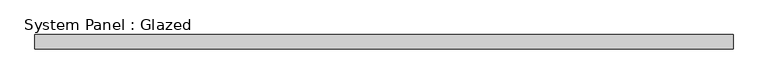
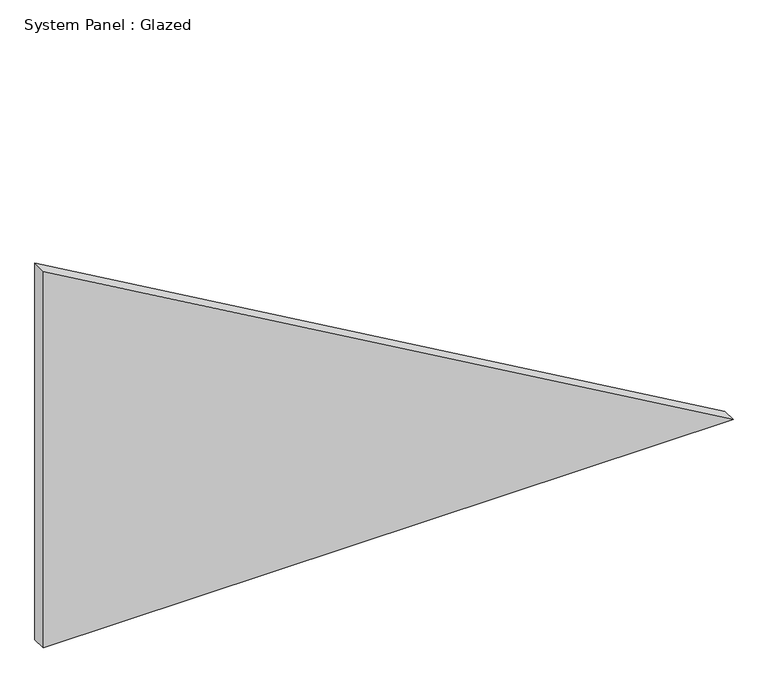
"""IFC4 building model written with IfcOpenShell, lengths in millimetres: plate geometry, System Panel : Glazed."""

import ifcopenshell
import ifcopenshell.guid

model = None  # the IFC model being written
_history = None  # IfcOwnerHistory: only IFC2X3 demands one
_inside = {}  # id of a spatial element -> (the spatial element, [elements in it])
_under = {}  # id of a project, library or spatial element -> (it, [spatial elements below it])
_declared = {}  # id of a project -> (the project, [libraries it declares])
_typed = {}  # id of a type object -> (the type object, [elements of that type])
_made_of = {}  # id of a material, layer set ... -> (it, [elements and type objects made of it])


def new_model(schema):
    """Start an empty IFC model of exactly this schema.

    Asked for "IFC4X3", IfcOpenShell would pick the latest addendum, in which some entities
    have other attributes; the version numbers below select the first issue.
    IFC2X3 requires an IfcOwnerHistory on every rooted entity: one is made here for all.
    """
    global model, _history
    if schema == "IFC4X3":
        model = ifcopenshell.file(schema_version=(4, 3, 0, 0))
    else:
        model = ifcopenshell.file(schema=schema)
    _inside.clear()
    _under.clear()
    _declared.clear()
    _typed.clear()
    _made_of.clear()
    _history = None
    if model.schema == "IFC2X3":
        org = make("IfcOrganization", Name="unknown")
        user = make(
            "IfcPersonAndOrganization",
            ThePerson=make("IfcPerson", FamilyName="unknown"),
            TheOrganization=org,
        )
        app = make(
            "IfcApplication",
            ApplicationDeveloper=org,
            Version="unknown",
            ApplicationFullName="unknown",
            ApplicationIdentifier="unknown",
        )
        _history = make(
            "IfcOwnerHistory",
            OwningUser=user,
            OwningApplication=app,
            ChangeAction="ADDED",
            CreationDate=0,
        )
    return model


def make(cls, **values):
    """One entity of the class cls with the attributes given. An attribute that is None is left unset."""
    return model.create_entity(
        cls, **{name: value for name, value in values.items() if value is not None}
    )


def rooted(cls, **values):
    """An entity with a GlobalId (a new one), such as an element, a storey or a relation."""
    return make(cls, GlobalId=ifcopenshell.guid.new(), OwnerHistory=_history, **values)


def si_unit(unit_type, name, prefix=None):
    """IfcSIUnit, for example si_unit("LENGTHUNIT", "METRE", prefix="MILLI")."""
    return make("IfcSIUnit", UnitType=unit_type, Prefix=prefix, Name=name)


def assignment(units):
    """IfcUnitAssignment: the units of a project."""
    return None if units is None else make("IfcUnitAssignment", Units=units)


def point(xyz):
    """IfcCartesianPoint."""
    return None if xyz is None else make("IfcCartesianPoint", Coordinates=xyz)


def direction(xyz):
    """IfcDirection."""
    return None if xyz is None else make("IfcDirection", DirectionRatios=xyz)


def frame(location, z_axis=None, x_axis=None):
    """IfcAxis2Placement3D, a coordinate frame: its origin and axes. An axis left out is left unset."""
    return make(
        "IfcAxis2Placement3D",
        Location=point(location),
        Axis=direction(z_axis),
        RefDirection=direction(x_axis),
    )


def origin():
    """The frame at (0, 0, 0) with its axes left unset."""
    return frame((0.0, 0.0, 0.0))


def place(relative_to, where):
    """IfcLocalPlacement: puts the frame where relative to a parent placement (None: the world)."""
    return make(
        "IfcLocalPlacement", PlacementRelTo=relative_to, RelativePlacement=where
    )


def context(
    kind, dimensions, precision=None, world=None, true_north=None, identifier=None
):
    """IfcGeometricRepresentationContext, for example the 3D "Model" context."""
    return make(
        "IfcGeometricRepresentationContext",
        ContextIdentifier=identifier,
        ContextType=kind,
        CoordinateSpaceDimension=dimensions,
        Precision=precision,
        WorldCoordinateSystem=world,
        TrueNorth=true_north,
    )


def project(units=None, contexts=None):
    """IfcProject with its units and contexts."""
    return rooted(
        "IfcProject",
        Name="project",
        RepresentationContexts=contexts,
        UnitsInContext=assignment(units),
    )


def spatial(cls, under=None, at=None, **own):
    """A site, building, storey or space (cls), placed at a placement, below another one or the project."""
    s = rooted(cls, ObjectPlacement=at, **own)
    if under is not None:
        _under.setdefault(under.id(), (under, []))[1].append(s)
    return s


def polyline(points):
    """IfcPolyline through the points."""
    return make("IfcPolyline", Points=[point(p) for p in points])


def outline(outer, holes=None, kind="AREA"):
    """IfcArbitraryClosedProfileDef: a profile drawn as a closed curve; with holes, ...WithVoids."""
    if holes is None:
        return make("IfcArbitraryClosedProfileDef", ProfileType=kind, OuterCurve=outer)
    return make(
        "IfcArbitraryProfileDefWithVoids",
        ProfileType=kind,
        OuterCurve=outer,
        InnerCurves=holes,
    )


def extrude(swept, where, along, depth):
    """IfcExtrudedAreaSolid: the profile swept, set in the frame where, extruded along a direction by depth."""
    return make(
        "IfcExtrudedAreaSolid",
        SweptArea=swept,
        Position=where,
        ExtrudedDirection=direction(along),
        Depth=depth,
    )


def shape(context_of_items, identifier, shape_type, items):
    """IfcShapeRepresentation: the items that make up one representation, for example the "Body"."""
    return make(
        "IfcShapeRepresentation",
        ContextOfItems=context_of_items,
        RepresentationIdentifier=identifier,
        RepresentationType=shape_type,
        Items=items,
    )


def source(mapping_origin, context_of_items, identifier, shape_type, items):
    """IfcRepresentationMap: a shape defined once, which mapped items show again and again."""
    return make(
        "IfcRepresentationMap",
        MappingOrigin=mapping_origin,
        MappedRepresentation=shape(context_of_items, identifier, shape_type, items),
    )


def transform(
    local_origin,
    x_axis=None,
    y_axis=None,
    z_axis=None,
    scale=None,
    scale2=None,
    scale3=None,
    uniform=True,
):
    """IfcCartesianTransformationOperator3D, or its non-uniform kind. x_axis, y_axis, z_axis: its Axis1, 2, 3."""
    if uniform:
        return make(
            "IfcCartesianTransformationOperator3D",
            Axis1=direction(x_axis),
            Axis2=direction(y_axis),
            LocalOrigin=point(local_origin),
            Scale=scale,
            Axis3=direction(z_axis),
        )
    return make(
        "IfcCartesianTransformationOperator3DnonUniform",
        Axis1=direction(x_axis),
        Axis2=direction(y_axis),
        LocalOrigin=point(local_origin),
        Scale=scale,
        Axis3=direction(z_axis),
        Scale2=scale2,
        Scale3=scale3,
    )


def mapped(mapping_source, mapping_target):
    """IfcMappedItem: shows the shape of a source again, moved by a transform."""
    return make(
        "IfcMappedItem", MappingSource=mapping_source, MappingTarget=mapping_target
    )


def made_of(thing, what):
    """Note that an element or type object is made of a material, layer set ...; save() writes the relation."""
    if what is not None:
        _made_of.setdefault(what.id(), (what, []))[1].append(thing)
    return thing


def element(
    cls,
    number,
    at=None,
    inside=None,
    cuts=None,
    type_object=None,
    material=None,
    context=None,
    identifier="Body",
    shape_type=None,
    held_by="IfcProductDefinitionShape",
    body=None,
    shapes=None,
    **own,
):
    """One element of the class cls, such as IfcWall. Its Tag is "e" and its number.

    at: its placement. inside: the storey or other place that contains it. cuts: it is an
    opening in that element (IfcRelVoidsElement). A single representation is given by context,
    identifier, shape_type and body (its items); several are given by shapes. held_by: the class
    of the entity that holds the representations. save() writes the other relations.
    """
    e = rooted(cls, Tag="e%d" % number, ObjectPlacement=at, **own)
    if body is not None:
        shapes = [shape(context, identifier, shape_type, body)]
    if shapes is not None:
        e.Representation = make(held_by, Representations=shapes)
    if inside is not None:
        _inside.setdefault(inside.id(), (inside, []))[1].append(e)
    if cuts is not None:
        rooted(
            "IfcRelVoidsElement", RelatingBuildingElement=cuts, RelatedOpeningElement=e
        )
    if type_object is not None:
        _typed.setdefault(type_object.id(), (type_object, []))[1].append(e)
    return made_of(e, material)


def aggregate(whole, parts):
    """IfcRelAggregates: a whole, such as a stair, and the parts it consists of."""
    return rooted("IfcRelAggregates", RelatingObject=whole, RelatedObjects=parts)


def save(model, path):
    """Write the relations noted so far, then the file.

    IfcRelAggregates (storeys below a building ...), IfcRelContainedInSpatialStructure (elements
    in a storey), IfcRelDefinesByType, IfcRelAssociatesMaterial and IfcRelDeclares: one each for
    every whole, place, type object, material and project.
    """
    for whole, parts in _under.values():
        aggregate(whole, parts)
    for where, things in _inside.values():
        rooted(
            "IfcRelContainedInSpatialStructure",
            RelatedElements=things,
            RelatingStructure=where,
        )
    for kind, things in _typed.values():
        rooted("IfcRelDefinesByType", RelatedObjects=things, RelatingType=kind)
    for what, things in _made_of.values():
        rooted("IfcRelAssociatesMaterial", RelatedObjects=things, RelatingMaterial=what)
    for by, libraries in _declared.values():
        rooted("IfcRelDeclares", RelatingContext=by, RelatedDefinitions=libraries)
    model.write(path)


def system_panel_glazed_789d0833(model_context):
    return source(origin(), model_context, "Body", "SweptSolid", [
        extrude(outline(polyline([(0.0, -604.9003575), (0.0, 604.9003575), (698.4787685, -604.9003575), (0.0, -604.9003575)])), frame((0.0, -49.5, 0.0), z_axis=(0.0, 1.0, 0.0), x_axis=(0.0, 0.0, 1.0)), (0.0, 0.0, 1.0), 25.0),
    ])


if __name__ == "__main__":
    model = new_model("IFC4")
    model_context = context("Model", 3, world=origin())
    ifc_project = project(units=[si_unit("LENGTHUNIT", "METRE", prefix="MILLI")], contexts=[model_context])
    site = spatial("IfcSite", under=ifc_project)
    building = spatial("IfcBuilding", under=site)
    placement = place(None, origin())
    system_panel_glazed_shape = system_panel_glazed_789d0833(model_context)
    element("IfcPlate", 1, ObjectType="System Panel : Glazed", at=placement, inside=building, context=model_context, shape_type="MappedRepresentation", body=[
        mapped(system_panel_glazed_shape, transform((0.0, 0.0, 0.0), x_axis=(1.0, 0.0, 0.0), y_axis=(0.0, 1.0, 0.0), z_axis=(0.0, 0.0, 1.0))),
    ])
    save(model, "model.ifc")
